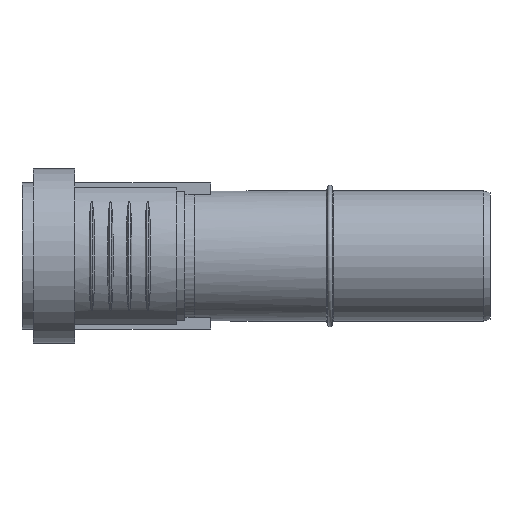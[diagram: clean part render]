
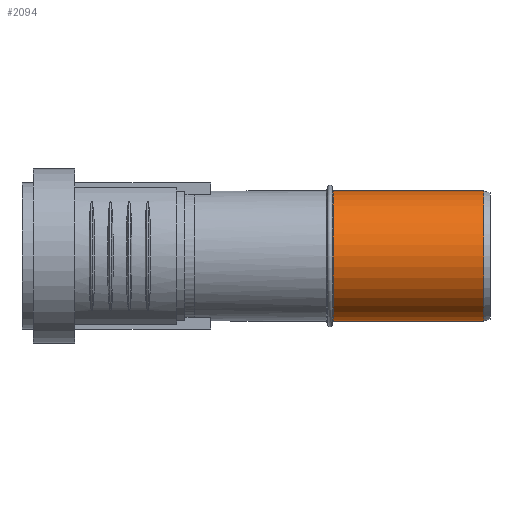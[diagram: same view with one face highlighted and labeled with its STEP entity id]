
A CAD part, left-side view. The second image highlights one B-rep face of the part: STEP entity #2094.
In plain terms, the highlighted cylindrical face has radius 20.075 mm (diameter 40.15 mm), a full revolution.
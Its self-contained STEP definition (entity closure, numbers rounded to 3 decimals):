
#372=CYLINDRICAL_SURFACE($,#2232,20.075);
#408=FACE_BOUND($,#597,.T.);
#478=FACE_OUTER_BOUND($,#596,.T.);
#596=EDGE_LOOP($,(#1387));
#597=EDGE_LOOP($,(#1388));
#781=CIRCLE($,#2230,20.075);
#783=CIRCLE($,#2233,20.075);
#884=VERTEX_POINT($,#3031);
#886=VERTEX_POINT($,#3036);
#1098=EDGE_CURVE($,#884,#884,#781,.T.);
#1100=EDGE_CURVE($,#886,#886,#783,.T.);
#1387=ORIENTED_EDGE($,*,*,#1100,.T.);
#1388=ORIENTED_EDGE($,*,*,#1098,.F.);
#2094=ADVANCED_FACE($,(#478,#408),#372,.T.);
#2230=AXIS2_PLACEMENT_3D($,#3032,#2475,#2476);
#2232=AXIS2_PLACEMENT_3D($,#3035,#2479,#2480);
#2233=AXIS2_PLACEMENT_3D($,#3037,#2481,#2482);
#2475=DIRECTION('center_axis',(0.,-1.,0.));
#2476=DIRECTION('ref_axis',(1.,0.,0.));
#2479=DIRECTION('center_axis',(0.,1.,0.));
#2480=DIRECTION('ref_axis',(1.,0.,0.));
#2481=DIRECTION('center_axis',(0.,-1.,0.));
#2482=DIRECTION('ref_axis',(1.,0.,0.));
#3031=CARTESIAN_POINT('',(-20.075,2.,0.));
#3032=CARTESIAN_POINT('Origin',(0.,2.,0.));
#3035=CARTESIAN_POINT('Origin',(0.,0.,0.));
#3036=CARTESIAN_POINT('',(-20.075,48.3,0.));
#3037=CARTESIAN_POINT('Origin',(0.,48.3,0.));
